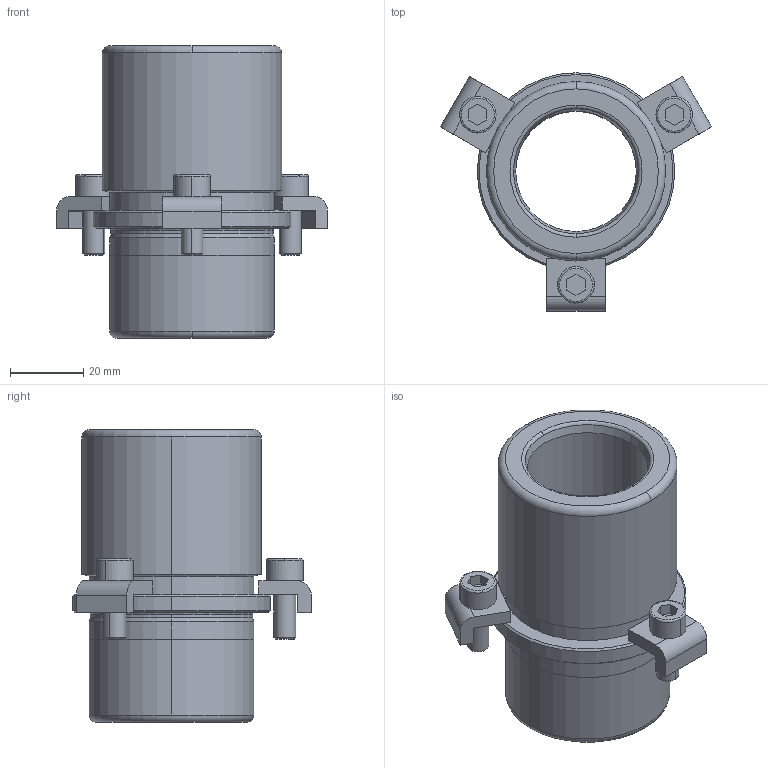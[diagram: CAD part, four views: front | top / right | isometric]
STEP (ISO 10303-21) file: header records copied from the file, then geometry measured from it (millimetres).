
FILE_DESCRIPTION((''),'2;1');
FILE_NAME('B40_025_050.stp','2009-01-05T16:26:23',(''),(''),'Mechanical Desktop 2009','Mechanical Desktop 2009',', , ');
FILE_SCHEMA(('CONFIG_CONTROL_DESIGN'));
Length unit declared in the file: millimetre
Products named in the file (2): Product; blmdl1
Assembly tree (1 placements, depth 2):
  Product
    blmdl1
Bounding box: 74.11 x 65.2 x 80 mm (x, y, z)
Volume: 78807 mm3; surface area: 27689.2 mm2
Topology: 7 solids, 7 shells, 141 faces, 362 edges, 238 vertices
Faces by surface type: plane 59, cylinder 38, cone 20, torus 14, bspline 10
Entity records: 4891 total; most frequent: CARTESIAN_POINT 1231, DIRECTION 794, ORIENTED_EDGE 724, EDGE_CURVE 362, AXIS2_PLACEMENT_3D 311, VERTEX_POINT 238, CIRCLE 178, VECTOR 172
